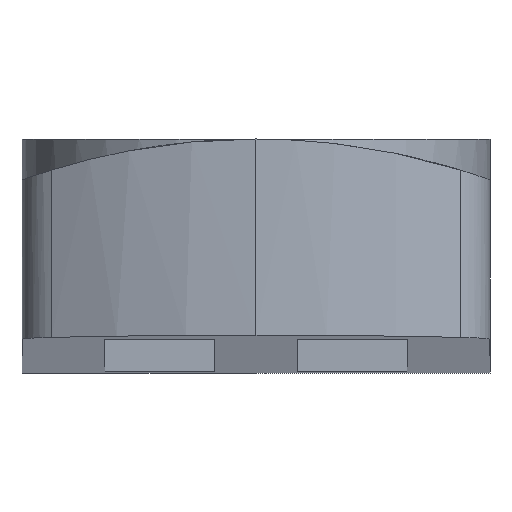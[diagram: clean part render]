
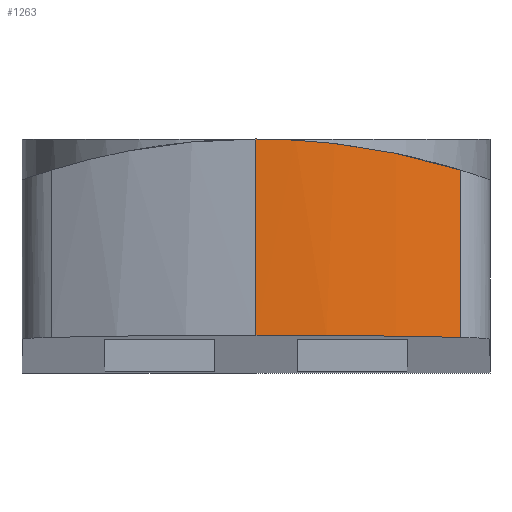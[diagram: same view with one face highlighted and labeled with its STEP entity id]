
A CAD part, left-side view. The second image highlights one B-rep face of the part: STEP entity #1263.
In plain terms, the highlighted cylindrical face has radius 16 mm (diameter 32 mm), a partial arc.
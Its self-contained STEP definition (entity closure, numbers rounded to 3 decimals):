
#62 = VERTEX_POINT ( 'NONE', #1578 ) ;
#97 = FACE_OUTER_BOUND ( 'NONE', #1485, .T. ) ;
#115 = CARTESIAN_POINT ( 'NONE',  ( -39.212, -5.124, 8.002 ) ) ;
#125 = CARTESIAN_POINT ( 'NONE',  ( -38.171, -7.429, 7.371 ) ) ;
#163 = EDGE_CURVE ( 'NONE', #1446, #62, #1196, .T. ) ;
#208 = AXIS2_PLACEMENT_3D ( 'NONE', #639, #594, #605 ) ;
#287 = ORIENTED_EDGE ( 'NONE', *, *, #1455, .T. ) ;
#294 = CYLINDRICAL_SURFACE ( 'NONE', #208, 16. ) ;
#335 = CARTESIAN_POINT ( 'NONE',  ( -40., 0., 8.5 ) ) ;
#351 = ORIENTED_EDGE ( 'NONE', *, *, #361, .T. ) ;
#361 = EDGE_CURVE ( 'NONE', #493, #1181, #926, .T. ) ;
#398 = CARTESIAN_POINT ( 'NONE',  ( -38.171, -7.429, 8.5 ) ) ;
#443 = ORIENTED_EDGE ( 'NONE', *, *, #966, .F. ) ;
#493 = VERTEX_POINT ( 'NONE', #125 ) ;
#499 = CARTESIAN_POINT ( 'NONE',  ( -38.171, -7.429, 7.371 ) ) ;
#587 = CARTESIAN_POINT ( 'NONE',  ( -40., -2.6, 1.375 ) ) ;
#592 = VECTOR ( 'NONE', #1543, 1000. ) ;
#594 = DIRECTION ( 'NONE',  ( 0., 0., -1. ) ) ;
#605 = DIRECTION ( 'NONE',  ( -1., 0., 0. ) ) ;
#639 = CARTESIAN_POINT ( 'NONE',  ( -24., 0., 8.5 ) ) ;
#705 = LINE ( 'NONE', #1288, #1200 ) ;
#911 = CARTESIAN_POINT ( 'NONE',  ( -39.8, -2.604, 8.372 ) ) ;
#926 = B_SPLINE_CURVE_WITH_KNOTS ( 'NONE', 3,
 ( #499, #1001, #115, #939, #911, #1595, #1029, #1184 ),
 .UNSPECIFIED., .F., .F.,
 ( 4, 2, 2, 4 ),
 ( -0.008, -0.004, -0.002, 0. ),
 .UNSPECIFIED. ) ;
#939 = CARTESIAN_POINT ( 'NONE',  ( -39.68, -3.249, 8.296 ) ) ;
#955 = ORIENTED_EDGE ( 'NONE', *, *, #163, .T. ) ;
#966 = EDGE_CURVE ( 'NONE', #493, #62, #1042, .T. ) ;
#1001 = CARTESIAN_POINT ( 'NONE',  ( -38.759, -6.307, 7.72 ) ) ;
#1029 = CARTESIAN_POINT ( 'NONE',  ( -40., -0.658, 8.5 ) ) ;
#1042 = LINE ( 'NONE', #398, #592 ) ;
#1061 = CARTESIAN_POINT ( 'NONE',  ( -39.378, -5.125, 1.348 ) ) ;
#1086 = CARTESIAN_POINT ( 'NONE',  ( -40., 0., 1.375 ) ) ;
#1181 = VERTEX_POINT ( 'NONE', #335 ) ;
#1184 = CARTESIAN_POINT ( 'NONE',  ( -40., 0., 8.5 ) ) ;
#1196 =( BOUNDED_CURVE ( )  B_SPLINE_CURVE ( 3, ( #1086, #587, #1061, #1389 ),
 .UNSPECIFIED., .F., .F. ) 
 B_SPLINE_CURVE_WITH_KNOTS ( ( 4, 4 ),
 ( 3.142, 3.624 ),
 .UNSPECIFIED. ) 
 CURVE ( )  GEOMETRIC_REPRESENTATION_ITEM ( )  RATIONAL_B_SPLINE_CURVE ( ( 1., 0.981, 0.981, 1. ) ) 
 REPRESENTATION_ITEM ( '' )  );
#1200 = VECTOR ( 'NONE', #1361, 1000. ) ;
#1263 = ADVANCED_FACE ( 'NONE', ( #97 ), #294, .T. ) ;
#1288 = CARTESIAN_POINT ( 'NONE',  ( -40., 0., 8.5 ) ) ;
#1361 = DIRECTION ( 'NONE',  ( 0., 0., -1. ) ) ;
#1386 = CARTESIAN_POINT ( 'NONE',  ( -40., 0., 1.375 ) ) ;
#1389 = CARTESIAN_POINT ( 'NONE',  ( -38.171, -7.429, 1.295 ) ) ;
#1446 = VERTEX_POINT ( 'NONE', #1386 ) ;
#1455 = EDGE_CURVE ( 'NONE', #1181, #1446, #705, .T. ) ;
#1485 = EDGE_LOOP ( 'NONE', ( #351, #287, #955, #443 ) ) ;
#1543 = DIRECTION ( 'NONE',  ( 0., 0., -1. ) ) ;
#1578 = CARTESIAN_POINT ( 'NONE',  ( -38.171, -7.429, 1.295 ) ) ;
#1595 = CARTESIAN_POINT ( 'NONE',  ( -39.96, -1.31, 8.474 ) ) ;
